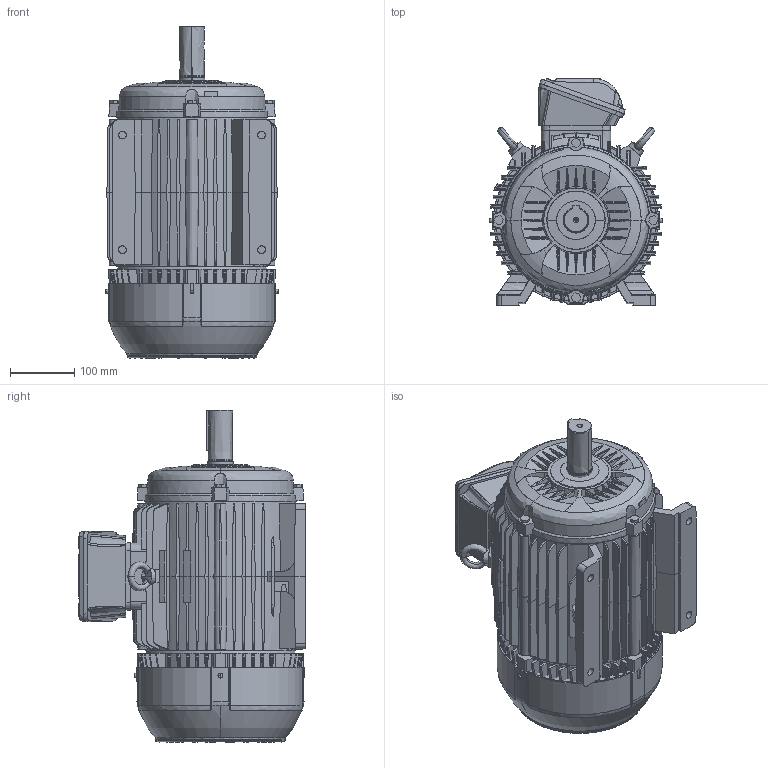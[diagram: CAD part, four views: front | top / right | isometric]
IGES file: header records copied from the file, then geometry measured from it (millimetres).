
Start section: SolidWorks IGES file using analytic representation for surfaces
Global section: file name: C:\Users\jean2\Desktop\W22_GENERAL_PURPOSE\17_FRAME_L132M\STANDARD\IGS\L132M_TOP.IGS; native system: SolidWorks 2016; preprocessor: SolidWorks 2016; author: jean2; date: 160920.093034; units: millimetre
Bounding box: 267.8 x 352.15 x 515 mm (x, y, z)
Surface area: 1224403.1 mm2 (no closed solid volume)
Topology: 0 solids, 0 shells, 3418 faces, 28695 edges, 28673 vertices
Faces by surface type: bspline 2671, revolution 747
